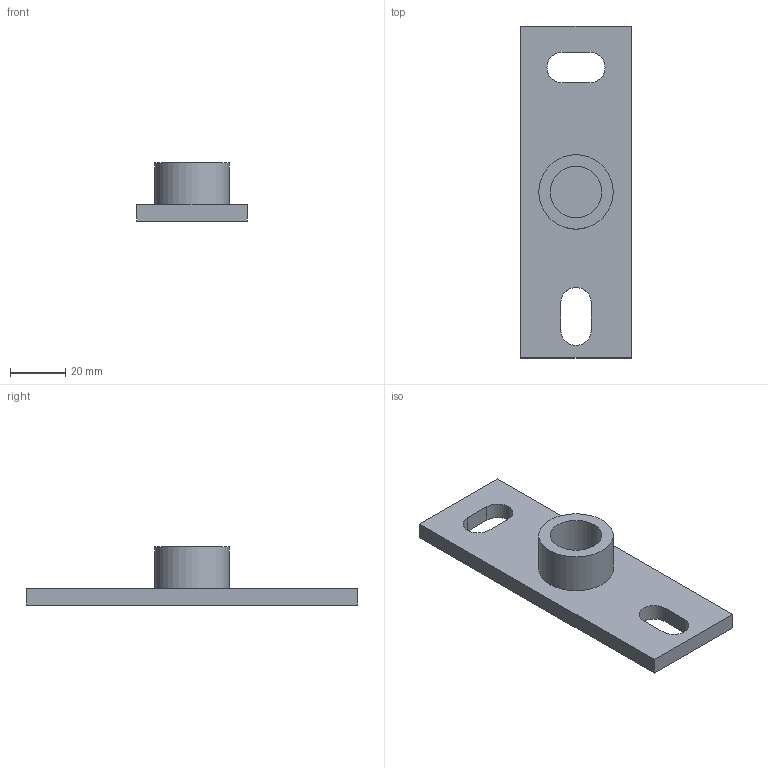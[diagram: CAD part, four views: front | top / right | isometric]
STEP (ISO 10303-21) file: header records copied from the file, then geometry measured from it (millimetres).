
FILE_DESCRIPTION(/* description */ (''),/* implementation_level */ '2;1');
FILE_NAME(/* name */ 'H:\Geberit-Teile\Export\GrundPl eckig\stp\362826.stp',/* time_stamp */ '2015-04-15T11:29:55+02:00',/* author */ ('seihe2'),/* organization */ (''),/* preprocessor_version */ 'ST-DEVELOPER v15.2',/* originating_system */ 'Autodesk Inventor 2014',/* authorisation */ '');
FILE_SCHEMA (('AUTOMOTIVE_DESIGN { 1 0 10303 214 3 1 1 }'));
Length unit declared in the file: millimetre
Products named in the file (1): 362826
Bounding box: 40 x 120 x 21 mm (x, y, z)
Volume: 30775.1 mm3; surface area: 13500.2 mm2
Topology: 1 solids, 1 shells, 18 faces, 42 edges, 28 vertices
Faces by surface type: plane 12, cylinder 6
Full cylindrical faces by diameter (mm): 18.631 x1, 26.9 x1
Entity records: 555 total; most frequent: DIRECTION 90, CARTESIAN_POINT 87, ORIENTED_EDGE 80, EDGE_CURVE 40, AXIS2_PLACEMENT_3D 31, LINE 28, VECTOR 28, VERTEX_POINT 28
